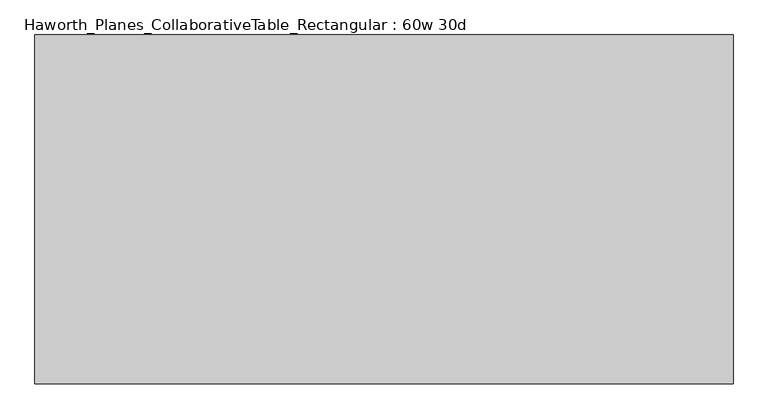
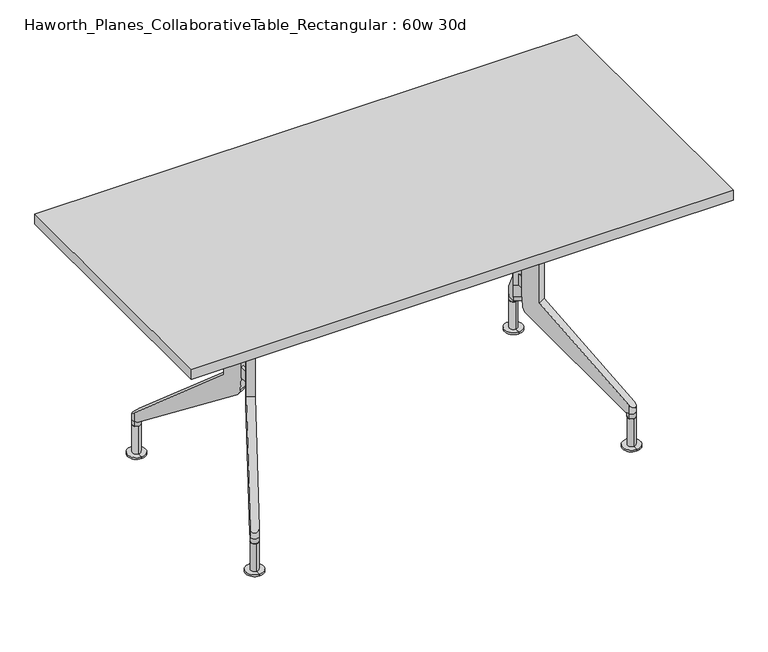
"""IFC4 building model written with IfcOpenShell, lengths in millimetres: furniture geometry, Haworth_Planes_CollaborativeTable_Rectangular : 60w 30d."""

from ifc_helpers import new_model, si_unit, point, frame, frame_2d, origin, place, context, project, spatial, polyline, circle_curve, ellipse_curve, trimmed, segment, composite_curve, outline, extrude, source, transform, mapped, element, save
from ifc_brep_helpers import plane_surface, cylinder_surface, advanced_brep


def haworth_planes_collaborativetable_rectangular_60w_30d_efc839f5(model_context):
    return source(origin(), model_context, "Body", "SolidModel", [
        extrude(outline(composite_curve([segment(polyline([(-62.6070312, 684.7085937), (62.6070313, 684.7085937), (62.6070313, 643.5651991)]), True, "CONTINUOUS"), segment(trimmed(circle_curve(frame_2d((56.2570313, 643.5651991)), 6.35), [point((62.6070313, 643.5651991))], [point((56.2570313, 637.2151991))], False, "CARTESIAN"), True, "CONTINUOUS"), segment(polyline([(56.2570313, 637.2151991), (-56.2570312, 637.2151991)]), True, "CONTINUOUS"), segment(trimmed(circle_curve(frame_2d((-56.2570312, 643.5651991)), 6.35), [point((-56.2570312, 637.2151991))], [point((-62.6070312, 643.5651991))], False, "CARTESIAN"), True, "CONTINUOUS"), segment(polyline([(-62.6070312, 643.5651991), (-62.6070312, 684.7085937)]), True, "CONTINUOUS")], self_intersect=False)), frame((-381.0, 0.0, 0.0), z_axis=(1.0, 0.0, 0.0), x_axis=(0.0, 1.0, 0.0)), (0.0, 0.0, 1.0), 762.0),
        extrude(outline(polyline([(762.0, -381.0), (-762.0, -381.0), (-762.0, 381.0), (762.0, 381.0), (762.0, -381.0)])), frame((0.0, 0.0, 706.4375), z_axis=(0.0, 0.0, 1.0), x_axis=(1.0, 0.0, 0.0)), (0.0, 0.0, 1.0), 30.1625),
        advanced_brep(
        [(530.225, 276.6169029, 87.3125), (530.2160783, 287.7293994, 87.3125), (530.2071566, 298.8418958, 87.3125), (520.4062702, 292.9500622, 87.3125), (540.0298221, 282.5161384, 87.3125), (530.2160783, 287.7293994, 0.0), (530.2364707, 262.3294076, 0.0), (530.1956859, 313.1293912, 0.0), (530.2364707, 262.3294076, 4.7625), (530.1956859, 313.1293912, 4.7625), (530.225, 276.6169029, 4.7625), (530.2071566, 298.8418958, 4.7625), (530.2071566, 298.8418958, 81.9372337)],
        [
            (0, 1),
            (1, 2),
            (2, 3, circle_curve(frame((530.2160783, 287.7293994, 87.3125), z_axis=(0.0, 0.0, 1.0), x_axis=(0.0008028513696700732, -0.9999996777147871, 0.0)), 11.1125)),
            (3, 0, circle_curve(frame((530.2160783, 287.7293994, 87.3125), z_axis=(0.0, 0.0, 1.0), x_axis=(0.0008028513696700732, -0.9999996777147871, 0.0)), 11.1125)),
            (0, 4, circle_curve(frame((530.2160783, 287.7293994, 87.3125), z_axis=(0.0, 0.0, 1.0), x_axis=(0.0008028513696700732, -0.9999996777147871, 0.0)), 11.1125)),
            (4, 2, circle_curve(frame((530.2160783, 287.7293994, 87.3125), z_axis=(0.0, 0.0, 1.0), x_axis=(0.0008028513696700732, -0.9999996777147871, 0.0)), 11.1125)),
            (5, 6),
            (6, 7, circle_curve(frame((530.2160783, 287.7293994, 0.0), z_axis=(0.0, 0.0, -1.0), x_axis=(0.0008028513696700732, -0.9999996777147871, 0.0)), 25.4)),
            (7, 5),
            (7, 6, circle_curve(frame((530.2160783, 287.7293994, 0.0), z_axis=(0.0, 0.0, -1.0), x_axis=(0.0008028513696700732, -0.9999996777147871, 0.0)), 25.4)),
            (6, 8),
            (8, 9, circle_curve(frame((530.2160783, 287.7293994, 4.7625), z_axis=(0.0, 0.0, -1.0), x_axis=(0.0008028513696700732, -0.9999996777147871, 0.0)), 25.4)),
            (9, 7),
            (9, 8, circle_curve(frame((530.2160783, 287.7293994, 4.7625), z_axis=(0.0, 0.0, -1.0), x_axis=(0.0008028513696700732, -0.9999996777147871, 0.0)), 25.4)),
            (8, 10),
            (10, 11, circle_curve(frame((530.2160783, 287.7293994, 4.7625), z_axis=(0.0, 0.0, -1.0), x_axis=(0.0008028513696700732, -0.9999996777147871, 0.0)), 11.1125)),
            (11, 9),
            (11, 10, circle_curve(frame((530.2160783, 287.7293994, 4.7625), z_axis=(0.0, 0.0, -1.0), x_axis=(0.0008028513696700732, -0.9999996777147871, 0.0)), 11.1125)),
            (10, 0),
            (2, 12),
            (12, 11),
        ],
        [
            plane_surface(frame((530.2160783, 287.7293994, 87.3125), z_axis=(0.0, 0.0, 1.0), x_axis=(0.0008028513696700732, -0.9999996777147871, 0.0))),
            plane_surface(frame((530.2160783, 287.7293994, 0.0), z_axis=(0.0, 0.0, -1.0), x_axis=(0.0008028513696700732, -0.9999996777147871, 0.0))),
            cylinder_surface(frame((530.2160783, 287.7293994, 87.0927212), z_axis=(0.0, 0.0, -1.0), x_axis=(0.0008028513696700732, -0.9999996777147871, 0.0)), 25.4),
            plane_surface(frame((530.2160783, 287.7293994, 4.7625), z_axis=(0.0, 0.0, 1.0), x_axis=(0.0008028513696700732, -0.9999996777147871, 0.0))),
            cylinder_surface(frame((530.2160783, 287.7293994, 87.0927212), z_axis=(0.0, 0.0, -1.0), x_axis=(0.0008028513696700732, -0.9999996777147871, 0.0)), 11.1125),
        ],
        [
            (0, [[1, 2, 3, 4]]),
            (0, [[-1, 5, 6, -2]]),
            (1, [[7, 8, 9]]),
            (1, [[-7, -9, 10]]),
            (2, [[-8, 11, 12, 13]]),
            (2, [[-10, -13, 14, -11]]),
            (3, [[-12, 15, 16, 17]]),
            (3, [[-14, -17, 18, -15]]),
            (4, [[-16, 19, -4, -3, 20, 21]]),
            (4, [[-18, -21, -20, -6, -5, -19]]),
        ],
    ),
        advanced_brep(
        [(530.2339217, -287.7294065, 87.3125), (530.2428434, -276.6169101, 87.3125), (530.225, -298.8419029, 87.3125), (530.2135293, -313.1293983, 0.0), (530.2543141, -262.3294147, 0.0), (530.2339217, -287.7294065, 0.0), (530.2135293, -313.1293983, 4.7625), (530.2543141, -262.3294147, 4.7625), (530.225, -298.8419029, 4.7625), (530.2428434, -276.6169101, 4.7625)],
        [
            (0, 1),
            (1, 2, circle_curve(frame((530.2339217, -287.7294065, 87.3125), z_axis=(0.0, 0.0, 1.0), x_axis=(0.0008028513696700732, 0.9999996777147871, 0.0)), 11.1125)),
            (2, 0),
            (2, 1, circle_curve(frame((530.2339217, -287.7294065, 87.3125), z_axis=(0.0, 0.0, 1.0), x_axis=(0.0008028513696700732, 0.9999996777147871, 0.0)), 11.1125)),
            (3, 4, circle_curve(frame((530.2339217, -287.7294065, 0.0), z_axis=(0.0, 0.0, -1.0), x_axis=(0.0008028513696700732, 0.9999996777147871, 0.0)), 25.4)),
            (4, 5),
            (5, 3),
            (4, 3, circle_curve(frame((530.2339217, -287.7294065, 0.0), z_axis=(0.0, 0.0, -1.0), x_axis=(0.0008028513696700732, 0.9999996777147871, 0.0)), 25.4)),
            (6, 7, circle_curve(frame((530.2339217, -287.7294065, 4.7625), z_axis=(0.0, 0.0, -1.0), x_axis=(0.0008028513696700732, 0.9999996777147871, 0.0)), 25.4)),
            (7, 4),
            (3, 6),
            (7, 6, circle_curve(frame((530.2339217, -287.7294065, 4.7625), z_axis=(0.0, 0.0, -1.0), x_axis=(0.0008028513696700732, 0.9999996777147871, 0.0)), 25.4)),
            (8, 9, circle_curve(frame((530.2339217, -287.7294065, 4.7625), z_axis=(0.0, 0.0, -1.0), x_axis=(0.0008028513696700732, 0.9999996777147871, 0.0)), 11.1125)),
            (9, 7),
            (6, 8),
            (9, 8, circle_curve(frame((530.2339217, -287.7294065, 4.7625), z_axis=(0.0, 0.0, -1.0), x_axis=(0.0008028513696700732, 0.9999996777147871, 0.0)), 11.1125)),
            (1, 9),
            (8, 2),
        ],
        [
            plane_surface(frame((530.2339217, -287.7294065, 87.3125), z_axis=(0.0, 0.0, 1.0), x_axis=(0.0008028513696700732, 0.9999996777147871, 0.0))),
            plane_surface(frame((530.2339217, -287.7294065, 0.0), z_axis=(0.0, 0.0, -1.0), x_axis=(0.0008028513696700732, 0.9999996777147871, 0.0))),
            cylinder_surface(frame((530.2339217, -287.7294065, 87.0927212), z_axis=(0.0, 0.0, 1.0), x_axis=(0.0008028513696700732, 0.9999996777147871, 0.0)), 25.4),
            plane_surface(frame((530.2339217, -287.7294065, 4.7625), z_axis=(0.0, 0.0, 1.0), x_axis=(0.0008028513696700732, 0.9999996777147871, 0.0))),
            cylinder_surface(frame((530.2339217, -287.7294065, 87.0927212), z_axis=(0.0, 0.0, 1.0), x_axis=(0.0008028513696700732, 0.9999996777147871, 0.0)), 11.1125),
        ],
        [
            (0, [[1, 2, 3]]),
            (0, [[-3, 4, -1]]),
            (1, [[5, 6, 7]]),
            (1, [[8, -7, -6]]),
            (2, [[9, 10, -5, 11]]),
            (2, [[12, -11, -8, -10]]),
            (3, [[13, 14, -9, 15]]),
            (3, [[16, -15, -12, -14]]),
            (4, [[-2, 17, -13, 18]]),
            (4, [[-4, -18, -16, -17]]),
        ],
    ),
        advanced_brep(
        [(395.2875, -10.2759364, 346.075), (386.9624427, -14.7024039, 346.075), (386.9624427, 14.7024039, 346.075), (395.2875, 10.2759364, 346.075), (386.9624427, -14.7024039, 377.825), (386.9624427, 14.7024039, 377.825), (395.2875, -10.2759364, 377.825), (395.2875, 10.2759364, 377.825), (520.4132234, -292.9463652, 127.0692937), (520.4132234, -292.9463652, 102.60711), (540.0367766, -282.5124407, 102.60711), (540.0367766, -282.5124407, 127.0692937), (399.5129171, -65.5636971, 706.4375), (375.6639467, -20.709861, 706.4375), (375.6639467, -20.709861, 345.8924055), (376.8554044, -22.9506894, 309.598894), (382.2901681, -33.1720949, 289.5346), (516.0759245, -284.7890113, 102.60711), (399.5129171, -65.5636971, 336.5430612), (419.1364704, -55.1297725, 706.4375), (419.1364704, -55.1297725, 336.5430612), (535.6994778, -274.3550868, 102.60711), (401.9137214, -22.7381703, 289.5346), (396.4789577, -12.5167648, 309.598894), (395.2875, -10.2759364, 345.8924055), (395.2875, -10.2759364, 706.4375), (531.3400894, -276.6729916, 102.60711), (520.4353129, -282.4711065, 102.60711), (540.0367766, -282.5124407, 87.3125), (520.4132234, -292.9463652, 87.3125), (520.4132234, 292.9463652, 102.60711), (520.4132234, 292.9463652, 127.0692937), (540.0367766, 282.5124407, 127.0692937), (540.0367766, 282.5124407, 102.60711), (399.5129171, 65.5636971, 706.4375), (399.5129171, 65.5636971, 336.5430612), (516.0759245, 284.7890113, 102.60711), (382.2901681, 33.1720949, 289.5346), (376.8554044, 22.9506894, 309.598894), (375.6639467, 20.709861, 345.8924055), (375.6639467, 20.709861, 706.4375), (419.1364704, 55.1297725, 706.4375), (395.2875, 10.2759364, 706.4375), (395.2875, 10.2759364, 345.8924055), (396.4789577, 12.5167648, 309.598894), (401.9137214, 22.7381703, 289.5346), (535.6994778, 274.3550868, 102.60711), (419.1364704, 55.1297725, 336.5430612), (520.4353129, 282.4711065, 102.60711), (531.3400894, 276.6729916, 102.60711), (540.0367766, 282.5124407, 87.3125), (520.4132234, 292.9463652, 87.3125)],
        [
            (0, 1),
            (1, 2),
            (2, 3),
            (3, 0),
            (1, 4),
            (4, 5),
            (5, 2),
            (4, 6),
            (6, 7),
            (7, 5),
            (6, 0),
            (3, 7),
            (8, 9),
            (9, 10, circle_curve(frame((530.225, -287.7294029, 102.60711), z_axis=(0.0, 0.0, 1.0), x_axis=(-0.8829495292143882, -0.4694679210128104, 0.0)), 11.1125)),
            (10, 11),
            (11, 8, ellipse_curve(frame((530.225, -287.7294029, 127.0692937), z_axis=(-0.29624204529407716, 0.5571557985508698, -0.7757693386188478), x_axis=(0.36419881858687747, -0.6849651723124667, -0.6310165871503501)), 14.3244898, 11.1125)),
            (12, 13),
            (13, 14),
            (14, 15),
            (15, 16, circle_curve(frame((389.2363015, -46.2360018, 311.4430172), z_axis=(-0.8829495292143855, -0.4694679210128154, 0.0), x_axis=(-0.4694679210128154, 0.8829495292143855, 0.0)), 26.4365879)),
            (16, 17),
            (17, 9),
            (8, 18),
            (18, 12),
            (19, 20),
            (20, 11),
            (10, 21),
            (21, 22),
            (22, 23, circle_curve(frame((408.8598548, -35.8020773, 311.4430172), z_axis=(0.8829495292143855, 0.4694679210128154, 0.0), x_axis=(-0.4694679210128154, 0.8829495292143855, 0.0)), 26.4365879)),
            (23, 24),
            (24, 0),
            (6, 25),
            (25, 19),
            (12, 19),
            (25, 13),
            (24, 14),
            (23, 15),
            (22, 16),
            (21, 26),
            (26, 27),
            (27, 17),
            (20, 18),
            (27, 9, circle_curve(frame((530.225, -287.7294029, 102.60711), z_axis=(0.0, 0.0, 1.0), x_axis=(-0.8829495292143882, -0.4694679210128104, 0.0)), 11.1125)),
            (10, 26, circle_curve(frame((530.225, -287.7294029, 102.60711), z_axis=(0.0, 0.0, 1.0), x_axis=(-0.8829495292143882, -0.4694679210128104, 0.0)), 11.1125)),
            (26, 27, circle_curve(frame((530.225, -287.7294029, 102.60711), z_axis=(0.0, 0.0, 1.0), x_axis=(-0.8829495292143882, -0.4694679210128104, 0.0)), 11.1125)),
            (28, 29, circle_curve(frame((530.225, -287.7294029, 87.3125), z_axis=(0.0, 0.0, -1.0), x_axis=(-0.8829495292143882, -0.4694679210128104, 0.0)), 11.1125)),
            (29, 28, circle_curve(frame((530.225, -287.7294029, 87.3125), z_axis=(0.0, 0.0, -1.0), x_axis=(-0.8829495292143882, -0.4694679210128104, 0.0)), 11.1125)),
            (28, 10),
            (9, 29),
            (30, 31),
            (31, 32, ellipse_curve(frame((530.225, 287.7294029, 127.0692937), z_axis=(-0.29624204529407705, -0.5571557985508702, -0.7757693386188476), x_axis=(0.36419881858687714, 0.6849651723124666, -0.6310165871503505)), 14.3244898, 11.1125)),
            (32, 33),
            (33, 30, circle_curve(frame((530.225, 287.7294029, 102.60711), z_axis=(0.0, 0.0, 1.0), x_axis=(-0.8829495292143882, 0.4694679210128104, 0.0)), 11.1125)),
            (34, 35),
            (35, 31),
            (30, 36),
            (36, 37),
            (37, 38, circle_curve(frame((389.2363015, 46.2360018, 311.4430172), z_axis=(-0.8829495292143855, 0.4694679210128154, 0.0), x_axis=(-0.4694679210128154, -0.8829495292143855, 0.0)), 26.4365879)),
            (38, 39),
            (39, 40),
            (40, 34),
            (41, 42),
            (42, 7),
            (3, 43),
            (43, 44),
            (44, 45, circle_curve(frame((408.8598548, 35.8020773, 311.4430172), z_axis=(0.8829495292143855, -0.4694679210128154, 0.0), x_axis=(-0.4694679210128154, -0.8829495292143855, 0.0)), 26.4365879)),
            (45, 46),
            (46, 33),
            (32, 47),
            (47, 41),
            (40, 42),
            (41, 34),
            (39, 43),
            (38, 44),
            (37, 45),
            (36, 48),
            (48, 49),
            (49, 46),
            (35, 47),
            (30, 48, circle_curve(frame((530.225, 287.7294029, 102.60711), z_axis=(0.0, 0.0, 1.0), x_axis=(-0.8829495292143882, 0.4694679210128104, 0.0)), 11.1125)),
            (49, 33, circle_curve(frame((530.225, 287.7294029, 102.60711), z_axis=(0.0, 0.0, 1.0), x_axis=(-0.8829495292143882, 0.4694679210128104, 0.0)), 11.1125)),
            (48, 49, circle_curve(frame((530.225, 287.7294029, 102.60711), z_axis=(0.0, 0.0, 1.0), x_axis=(-0.8829495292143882, 0.4694679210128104, 0.0)), 11.1125)),
            (50, 51, circle_curve(frame((530.225, 287.7294029, 87.3125), z_axis=(0.0, 0.0, -1.0), x_axis=(-0.8829495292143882, 0.4694679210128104, 0.0)), 11.1125)),
            (51, 50, circle_curve(frame((530.225, 287.7294029, 87.3125), z_axis=(0.0, 0.0, -1.0), x_axis=(-0.8829495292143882, 0.4694679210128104, 0.0)), 11.1125)),
            (51, 30),
            (33, 50),
        ],
        [
            plane_surface(frame((395.2875, 25.4, 346.075), z_axis=(0.0, 0.0, -1.0), x_axis=(0.0, -1.0, 0.0))),
            plane_surface(frame((386.9624427, 25.4, 346.075), z_axis=(-1.0, 0.0, 0.0), x_axis=(0.0, -1.0, 0.0))),
            plane_surface(frame((386.9624427, 25.4, 377.825), z_axis=(0.0, 0.0, 1.0), x_axis=(0.0, -1.0, 0.0))),
            plane_surface(frame((395.2875, 25.4, 377.825), z_axis=(1.0, 0.0, 0.0), x_axis=(0.0, -1.0, 0.0))),
            cylinder_surface(frame((530.225, -287.7294029, 81.9372337), z_axis=(0.0, 0.0, -1.0), x_axis=(-0.8829495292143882, -0.4694679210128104, 0.0)), 11.1125),
            plane_surface(frame((375.6639467, -20.709861, 706.4375), z_axis=(-0.8829495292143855, -0.4694679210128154, 0.0), x_axis=(-0.4694679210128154, 0.8829495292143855, 0.0))),
            plane_surface(frame((395.2875, -10.2759364, 706.4375), z_axis=(0.8829495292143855, 0.4694679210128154, 0.0), x_axis=(0.4694679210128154, -0.8829495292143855, 0.0))),
            plane_surface(frame((399.5129171, -65.5636971, 706.4375), z_axis=(0.0, 0.0, 1.0000000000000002), x_axis=(0.8829495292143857, 0.469467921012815, 0.0))),
            plane_surface(frame((375.6639467, -20.709861, 706.4375), z_axis=(-0.4694679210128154, 0.8829495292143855, 0.0), x_axis=(0.8829495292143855, 0.4694679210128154, 0.0))),
            plane_surface(frame((375.6639467, -20.709861, 345.8924055), z_axis=(-0.46832432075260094, 0.8807987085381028, -0.0697564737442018), x_axis=(0.8829495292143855, 0.4694679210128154, 0.0))),
            cylinder_surface(frame((408.8598548, -35.8020773, 311.4430172), z_axis=(-0.8829495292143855, -0.4694679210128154, 0.0), x_axis=(-0.4694679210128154, 0.8829495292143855, 0.0)), 26.4365879),
            plane_surface(frame((382.2901681, -33.1720949, 289.5346), z_axis=(-0.2574936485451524, 0.48427993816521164, -0.8361638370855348), x_axis=(0.8829495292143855, 0.4694679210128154, 0.0))),
            plane_surface(frame((526.425069, -304.2531149, 116.6530756), z_axis=(0.29624204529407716, -0.5571557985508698, 0.7757693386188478), x_axis=(0.8829495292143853, 0.4694679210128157, 0.0))),
            plane_surface(frame((399.5129171, -65.5636971, 336.5430612), z_axis=(0.46946792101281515, -0.8829495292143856, 0.0), x_axis=(0.8829495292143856, 0.46946792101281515, 0.0))),
            plane_surface(frame((516.0759245, -284.7890113, 102.60711), z_axis=(0.0, 0.0, -1.0), x_axis=(0.8829495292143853, 0.4694679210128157, 0.0))),
            plane_surface(frame((520.4132234, -292.9463652, 102.60711), z_axis=(0.0, 0.0, 1.0), x_axis=(0.4694679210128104, -0.8829495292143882, 0.0))),
            plane_surface(frame((520.4132234, -292.9463652, 87.3125), z_axis=(0.0, 0.0, -1.0), x_axis=(-0.4694679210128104, 0.8829495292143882, 0.0))),
            cylinder_surface(frame((530.225, -287.7294029, 87.3125), z_axis=(0.0, 0.0, 1.0), x_axis=(-0.8829495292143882, -0.4694679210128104, 0.0)), 11.1125),
            cylinder_surface(frame((530.225, 287.7294029, 81.9372337), z_axis=(0.0, 0.0, -1.0), x_axis=(-0.8829495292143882, 0.4694679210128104, 0.0)), 11.1125),
            plane_surface(frame((399.5129171, 65.5636971, 336.5430612), z_axis=(-0.8829495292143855, 0.4694679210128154, 0.0), x_axis=(0.0, 0.0, -1.0))),
            plane_surface(frame((419.1364704, 55.1297725, 336.5430612), z_axis=(0.8829495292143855, -0.4694679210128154, 0.0), x_axis=(0.0, 0.0, 1.0))),
            plane_surface(frame((375.6639467, 20.709861, 706.4375), z_axis=(0.0, 0.0, 1.0000000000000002), x_axis=(0.8829495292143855, -0.4694679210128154, 0.0))),
            plane_surface(frame((375.6639467, 20.709861, 345.8924055), z_axis=(-0.4694679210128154, -0.8829495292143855, 0.0), x_axis=(0.8829495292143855, -0.4694679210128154, 0.0))),
            plane_surface(frame((376.8554044, 22.9506894, 309.598894), z_axis=(-0.46832432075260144, -0.8807987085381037, -0.06975647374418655), x_axis=(0.8829495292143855, -0.4694679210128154, 0.0))),
            cylinder_surface(frame((408.8598548, 35.8020773, 311.4430172), z_axis=(-0.8829495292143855, 0.4694679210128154, 0.0), x_axis=(-0.4694679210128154, -0.8829495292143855, 0.0)), 26.4365879),
            plane_surface(frame((516.0759245, 284.7890113, 102.60711), z_axis=(-0.25749364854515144, -0.48427993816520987, -0.8361638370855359), x_axis=(0.8829495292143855, -0.4694679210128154, 0.0))),
            plane_surface(frame((399.5129171, 65.5636971, 336.5430612), z_axis=(0.2962420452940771, 0.5571557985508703, 0.7757693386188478), x_axis=(0.8829495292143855, -0.4694679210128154, 0.0))),
            plane_surface(frame((399.5129171, 65.5636971, 706.4375), z_axis=(0.4694679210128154, 0.8829495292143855, 0.0), x_axis=(0.8829495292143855, -0.4694679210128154, 0.0))),
            plane_surface(frame((526.425069, 304.2531149, 102.60711), z_axis=(0.0, 0.0, -1.0), x_axis=(0.8829495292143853, -0.4694679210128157, 0.0))),
            plane_surface(frame((520.4132234, 292.9463652, 102.60711), z_axis=(0.0, 0.0, 1.0), x_axis=(-0.4694679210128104, -0.8829495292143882, 0.0))),
            plane_surface(frame((520.4132234, 292.9463652, 87.3125), z_axis=(0.0, 0.0, -1.0), x_axis=(0.4694679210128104, 0.8829495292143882, 0.0))),
            cylinder_surface(frame((530.225, 287.7294029, 87.3125), z_axis=(0.0, 0.0, 1.0), x_axis=(-0.8829495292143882, 0.4694679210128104, 0.0)), 11.1125),
        ],
        [
            (0, [[1, 2, 3, 4]]),
            (1, [[5, 6, 7, -2]]),
            (2, [[8, 9, 10, -6]]),
            (3, [[11, -4, 12, -9]]),
            (4, [[13, 14, 15, 16]]),
            (5, [[17, 18, 19, 20, 21, 22, -13, 23, 24]]),
            (6, [[25, 26, -15, 27, 28, 29, 30, 31, -11, 32, 33]]),
            (7, [[-17, 34, -33, 35]]),
            (8, [[-18, -35, -32, -8, -5, -1, -31, 36]]),
            (9, [[-19, -36, -30, 37]]),
            (10, [[-20, -37, -29, 38]]),
            (11, [[-21, -38, -28, 39, 40, 41]]),
            (12, [[42, -23, -16, -26]]),
            (13, [[-24, -42, -25, -34]]),
            (14, [[-22, -41, 43]]),
            (14, [[-27, 44, -39]]),
            (15, [[45, -40]]),
            (16, [[46, 47]]),
            (17, [[-46, 48, -14, 49]]),
            (17, [[-47, -49, -43, -45, -44, -48]]),
            (18, [[50, 51, 52, 53]]),
            (19, [[54, 55, -50, 56, 57, 58, 59, 60, 61]]),
            (20, [[62, 63, -12, 64, 65, 66, 67, 68, -52, 69, 70]]),
            (21, [[-61, 71, -62, 72]]),
            (22, [[-60, 73, -64, -3, -7, -10, -63, -71]]),
            (23, [[-59, 74, -65, -73]]),
            (24, [[-58, 75, -66, -74]]),
            (25, [[-57, 76, 77, 78, -67, -75]]),
            (26, [[79, -69, -51, -55]]),
            (27, [[-54, -72, -70, -79]]),
            (28, [[-56, 80, -76]]),
            (28, [[-68, -78, 81]]),
            (29, [[82, -77]]),
            (30, [[83, 84]]),
            (31, [[-84, 85, -53, 86]]),
            (31, [[-83, -86, -81, -82, -80, -85]]),
        ],
    ),
        advanced_brep(
        [(-530.225, 276.6169029, 87.3125), (-520.4062702, 292.9500622, 87.3125), (-530.2071566, 298.8418958, 87.3125), (-530.2160783, 287.7293994, 87.3125), (-540.0298221, 282.5161384, 87.3125), (-530.2160783, 287.7293994, 0.0), (-530.1956859, 313.1293912, 0.0), (-530.2364707, 262.3294076, 0.0), (-530.1956859, 313.1293912, 4.7625), (-530.2364707, 262.3294076, 4.7625), (-530.2071566, 298.8418958, 4.7625), (-530.225, 276.6169029, 4.7625), (-530.2071566, 298.8418958, 81.9372337)],
        [
            (0, 1, circle_curve(frame((-530.2160783, 287.7293994, 87.3125), z_axis=(0.0, 0.0, 1.0), x_axis=(-0.0008028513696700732, -0.9999996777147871, 0.0)), 11.1125)),
            (1, 2, circle_curve(frame((-530.2160783, 287.7293994, 87.3125), z_axis=(0.0, 0.0, 1.0), x_axis=(-0.0008028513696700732, -0.9999996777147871, 0.0)), 11.1125)),
            (2, 3),
            (3, 0),
            (2, 4, circle_curve(frame((-530.2160783, 287.7293994, 87.3125), z_axis=(0.0, 0.0, 1.0), x_axis=(-0.0008028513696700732, -0.9999996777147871, 0.0)), 11.1125)),
            (4, 0, circle_curve(frame((-530.2160783, 287.7293994, 87.3125), z_axis=(0.0, 0.0, 1.0), x_axis=(-0.0008028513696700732, -0.9999996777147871, 0.0)), 11.1125)),
            (5, 6),
            (6, 7, circle_curve(frame((-530.2160783, 287.7293994, 0.0), z_axis=(0.0, 0.0, -1.0), x_axis=(-0.0008028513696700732, -0.9999996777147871, 0.0)), 25.4)),
            (7, 5),
            (7, 6, circle_curve(frame((-530.2160783, 287.7293994, 0.0), z_axis=(0.0, 0.0, -1.0), x_axis=(-0.0008028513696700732, -0.9999996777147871, 0.0)), 25.4)),
            (6, 8),
            (8, 9, circle_curve(frame((-530.2160783, 287.7293994, 4.7625), z_axis=(0.0, 0.0, -1.0), x_axis=(-0.0008028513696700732, -0.9999996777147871, 0.0)), 25.4)),
            (9, 7),
            (9, 8, circle_curve(frame((-530.2160783, 287.7293994, 4.7625), z_axis=(0.0, 0.0, -1.0), x_axis=(-0.0008028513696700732, -0.9999996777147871, 0.0)), 25.4)),
            (8, 10),
            (10, 11, circle_curve(frame((-530.2160783, 287.7293994, 4.7625), z_axis=(0.0, 0.0, -1.0), x_axis=(-0.0008028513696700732, -0.9999996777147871, 0.0)), 11.1125)),
            (11, 9),
            (11, 10, circle_curve(frame((-530.2160783, 287.7293994, 4.7625), z_axis=(0.0, 0.0, -1.0), x_axis=(-0.0008028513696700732, -0.9999996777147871, 0.0)), 11.1125)),
            (10, 12),
            (12, 2),
            (0, 11),
        ],
        [
            plane_surface(frame((-530.2160783, 287.7293994, 87.3125), z_axis=(0.0, 0.0, 1.0), x_axis=(-0.0008028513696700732, -0.9999996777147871, 0.0))),
            plane_surface(frame((-530.2160783, 287.7293994, 0.0), z_axis=(0.0, 0.0, -1.0), x_axis=(-0.0008028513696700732, -0.9999996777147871, 0.0))),
            cylinder_surface(frame((-530.2160783, 287.7293994, 87.0927212), z_axis=(0.0, 0.0, -1.0), x_axis=(-0.0008028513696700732, -0.9999996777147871, 0.0)), 25.4),
            plane_surface(frame((-530.2160783, 287.7293994, 4.7625), z_axis=(0.0, 0.0, 1.0), x_axis=(-0.0008028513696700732, -0.9999996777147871, 0.0))),
            cylinder_surface(frame((-530.2160783, 287.7293994, 87.0927212), z_axis=(0.0, 0.0, -1.0), x_axis=(-0.0008028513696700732, -0.9999996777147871, 0.0)), 11.1125),
        ],
        [
            (0, [[1, 2, 3, 4]]),
            (0, [[-3, 5, 6, -4]]),
            (1, [[7, 8, 9]]),
            (1, [[10, -7, -9]]),
            (2, [[11, 12, 13, -8]]),
            (2, [[-13, 14, -11, -10]]),
            (3, [[15, 16, 17, -12]]),
            (3, [[-17, 18, -15, -14]]),
            (4, [[19, 20, -2, -1, 21, -16]]),
            (4, [[-21, -6, -5, -20, -19, -18]]),
        ],
    ),
        advanced_brep(
        [(-530.2339217, -287.7294065, 87.3125), (-530.225, -298.8419029, 87.3125), (-530.2428434, -276.6169101, 87.3125), (-530.2135293, -313.1293983, 0.0), (-530.2339217, -287.7294065, 0.0), (-530.2543141, -262.3294147, 0.0), (-530.2135293, -313.1293983, 4.7625), (-530.2543141, -262.3294147, 4.7625), (-530.225, -298.8419029, 4.7625), (-530.2428434, -276.6169101, 4.7625)],
        [
            (0, 1),
            (1, 2, circle_curve(frame((-530.2339217, -287.7294065, 87.3125), z_axis=(0.0, 0.0, 1.0), x_axis=(-0.0008028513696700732, 0.9999996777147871, 0.0)), 11.1125)),
            (2, 0),
            (2, 1, circle_curve(frame((-530.2339217, -287.7294065, 87.3125), z_axis=(0.0, 0.0, 1.0), x_axis=(-0.0008028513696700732, 0.9999996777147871, 0.0)), 11.1125)),
            (3, 4),
            (4, 5),
            (5, 3, circle_curve(frame((-530.2339217, -287.7294065, 0.0), z_axis=(0.0, 0.0, -1.0), x_axis=(-0.0008028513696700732, 0.9999996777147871, 0.0)), 25.4)),
            (3, 5, circle_curve(frame((-530.2339217, -287.7294065, 0.0), z_axis=(0.0, 0.0, -1.0), x_axis=(-0.0008028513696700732, 0.9999996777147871, 0.0)), 25.4)),
            (6, 3),
            (5, 7),
            (7, 6, circle_curve(frame((-530.2339217, -287.7294065, 4.7625), z_axis=(0.0, 0.0, -1.0), x_axis=(-0.0008028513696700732, 0.9999996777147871, 0.0)), 25.4)),
            (6, 7, circle_curve(frame((-530.2339217, -287.7294065, 4.7625), z_axis=(0.0, 0.0, -1.0), x_axis=(-0.0008028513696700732, 0.9999996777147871, 0.0)), 25.4)),
            (8, 6),
            (7, 9),
            (9, 8, circle_curve(frame((-530.2339217, -287.7294065, 4.7625), z_axis=(0.0, 0.0, -1.0), x_axis=(-0.0008028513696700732, 0.9999996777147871, 0.0)), 11.1125)),
            (8, 9, circle_curve(frame((-530.2339217, -287.7294065, 4.7625), z_axis=(0.0, 0.0, -1.0), x_axis=(-0.0008028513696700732, 0.9999996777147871, 0.0)), 11.1125)),
            (1, 8),
            (9, 2),
        ],
        [
            plane_surface(frame((-530.2339217, -287.7294065, 87.3125), z_axis=(0.0, 0.0, 1.0), x_axis=(-0.0008028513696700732, 0.9999996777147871, 0.0))),
            plane_surface(frame((-530.2339217, -287.7294065, 0.0), z_axis=(0.0, 0.0, -1.0), x_axis=(-0.0008028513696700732, 0.9999996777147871, 0.0))),
            cylinder_surface(frame((-530.2339217, -287.7294065, 87.0927212), z_axis=(0.0, 0.0, 1.0), x_axis=(-0.0008028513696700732, 0.9999996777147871, 0.0)), 25.4),
            plane_surface(frame((-530.2339217, -287.7294065, 4.7625), z_axis=(0.0, 0.0, 1.0), x_axis=(-0.0008028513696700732, 0.9999996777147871, 0.0))),
            cylinder_surface(frame((-530.2339217, -287.7294065, 87.0927212), z_axis=(0.0, 0.0, 1.0), x_axis=(-0.0008028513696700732, 0.9999996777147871, 0.0)), 11.1125),
        ],
        [
            (0, [[1, 2, 3]]),
            (0, [[-3, 4, -1]]),
            (1, [[5, 6, 7]]),
            (1, [[-6, -5, 8]]),
            (2, [[9, -7, 10, 11]]),
            (2, [[-10, -8, -9, 12]]),
            (3, [[13, -11, 14, 15]]),
            (3, [[-14, -12, -13, 16]]),
            (4, [[17, -15, 18, -2]]),
            (4, [[-18, -16, -17, -4]]),
        ],
    ),
        advanced_brep(
        [(-395.2875, -10.2759364, 346.075), (-395.2875, 10.2759364, 346.075), (-386.9624427, 14.7024039, 346.075), (-386.9624427, -14.7024039, 346.075), (-386.9624427, 14.7024039, 377.825), (-386.9624427, -14.7024039, 377.825), (-395.2875, 10.2759364, 377.825), (-395.2875, -10.2759364, 377.825), (-520.4132234, -292.9463652, 127.0692937), (-540.0367766, -282.5124407, 127.0692937), (-540.0367766, -282.5124407, 102.60711), (-520.4132234, -292.9463652, 102.60711), (-399.5129171, -65.5636971, 706.4375), (-399.5129171, -65.5636971, 336.5430612), (-516.0759245, -284.7890113, 102.60711), (-382.2901681, -33.1720949, 289.5346), (-376.8554044, -22.9506894, 309.598894), (-375.6639467, -20.709861, 345.8924055), (-375.6639467, -20.709861, 706.4375), (-419.1364704, -55.1297725, 706.4375), (-395.2875, -10.2759364, 706.4375), (-395.2875, -10.2759364, 345.8924055), (-396.4789577, -12.5167648, 309.598894), (-401.9137214, -22.7381703, 289.5346), (-535.6994778, -274.3550868, 102.60711), (-419.1364704, -55.1297725, 336.5430612), (-520.4353129, -282.4711065, 102.60711), (-531.3400894, -276.6729916, 102.60711), (-540.0367766, -282.5124407, 87.3125), (-520.4132234, -292.9463652, 87.3125), (-520.4132234, 292.9463652, 102.60711), (-540.0367766, 282.5124407, 102.60711), (-540.0367766, 282.5124407, 127.0692937), (-520.4132234, 292.9463652, 127.0692937), (-399.5129171, 65.5636971, 706.4375), (-375.6639467, 20.709861, 706.4375), (-375.6639467, 20.709861, 345.8924055), (-376.8554044, 22.9506894, 309.598894), (-382.2901681, 33.1720949, 289.5346), (-516.0759245, 284.7890113, 102.60711), (-399.5129171, 65.5636971, 336.5430612), (-419.1364704, 55.1297725, 706.4375), (-419.1364704, 55.1297725, 336.5430612), (-535.6994778, 274.3550868, 102.60711), (-401.9137214, 22.7381703, 289.5346), (-396.4789577, 12.5167648, 309.598894), (-395.2875, 10.2759364, 345.8924055), (-395.2875, 10.2759364, 706.4375), (-531.3400894, 276.6729916, 102.60711), (-520.4353129, 282.4711065, 102.60711), (-540.0367766, 282.5124407, 87.3125), (-520.4132234, 292.9463652, 87.3125)],
        [
            (0, 1),
            (1, 2),
            (2, 3),
            (3, 0),
            (2, 4),
            (4, 5),
            (5, 3),
            (4, 6),
            (6, 7),
            (7, 5),
            (6, 1),
            (0, 7),
            (8, 9, ellipse_curve(frame((-530.225, -287.7294029, 127.0692937), z_axis=(0.29624204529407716, 0.5571557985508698, -0.7757693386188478), x_axis=(-0.36419881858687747, -0.6849651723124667, -0.6310165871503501)), 14.3244898, 11.1125)),
            (9, 10),
            (10, 11, circle_curve(frame((-530.225, -287.7294029, 102.60711), z_axis=(0.0, 0.0, 1.0), x_axis=(0.8829495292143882, -0.4694679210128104, 0.0)), 11.1125)),
            (11, 8),
            (12, 13),
            (13, 8),
            (11, 14),
            (14, 15),
            (15, 16, circle_curve(frame((-389.2363015, -46.2360018, 311.4430172), z_axis=(0.8829495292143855, -0.4694679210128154, 0.0), x_axis=(0.4694679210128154, 0.8829495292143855, 0.0)), 26.4365879)),
            (16, 17),
            (17, 18),
            (18, 12),
            (19, 20),
            (20, 7),
            (0, 21),
            (21, 22),
            (22, 23, circle_curve(frame((-408.8598548, -35.8020773, 311.4430172), z_axis=(-0.8829495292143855, 0.4694679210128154, 0.0), x_axis=(0.4694679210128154, 0.8829495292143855, 0.0)), 26.4365879)),
            (23, 24),
            (24, 10),
            (9, 25),
            (25, 19),
            (18, 20),
            (19, 12),
            (17, 21),
            (16, 22),
            (15, 23),
            (14, 26),
            (26, 27),
            (27, 24),
            (13, 25),
            (11, 26, circle_curve(frame((-530.225, -287.7294029, 102.60711), z_axis=(0.0, 0.0, 1.0), x_axis=(0.8829495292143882, -0.4694679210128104, 0.0)), 11.1125)),
            (27, 10, circle_curve(frame((-530.225, -287.7294029, 102.60711), z_axis=(0.0, 0.0, 1.0), x_axis=(0.8829495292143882, -0.4694679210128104, 0.0)), 11.1125)),
            (26, 27, circle_curve(frame((-530.225, -287.7294029, 102.60711), z_axis=(0.0, 0.0, 1.0), x_axis=(0.8829495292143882, -0.4694679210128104, 0.0)), 11.1125)),
            (28, 29, circle_curve(frame((-530.225, -287.7294029, 87.3125), z_axis=(0.0, 0.0, -1.0), x_axis=(0.8829495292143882, -0.4694679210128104, 0.0)), 11.1125)),
            (29, 28, circle_curve(frame((-530.225, -287.7294029, 87.3125), z_axis=(0.0, 0.0, -1.0), x_axis=(0.8829495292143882, -0.4694679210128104, 0.0)), 11.1125)),
            (29, 11),
            (10, 28),
            (30, 31, circle_curve(frame((-530.225, 287.7294029, 102.60711), z_axis=(0.0, 0.0, 1.0), x_axis=(0.8829495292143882, 0.4694679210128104, 0.0)), 11.1125)),
            (31, 32),
            (32, 33, ellipse_curve(frame((-530.225, 287.7294029, 127.0692937), z_axis=(0.29624204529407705, -0.5571557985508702, -0.7757693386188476), x_axis=(-0.36419881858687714, 0.6849651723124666, -0.6310165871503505)), 14.3244898, 11.1125)),
            (33, 30),
            (34, 35),
            (35, 36),
            (36, 37),
            (37, 38, circle_curve(frame((-389.2363015, 46.2360018, 311.4430172), z_axis=(0.8829495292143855, 0.4694679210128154, 0.0), x_axis=(0.4694679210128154, -0.8829495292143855, 0.0)), 26.4365879)),
            (38, 39),
            (39, 30),
            (33, 40),
            (40, 34),
            (41, 42),
            (42, 32),
            (31, 43),
            (43, 44),
            (44, 45, circle_curve(frame((-408.8598548, 35.8020773, 311.4430172), z_axis=(-0.8829495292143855, -0.4694679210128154, 0.0), x_axis=(0.4694679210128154, -0.8829495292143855, 0.0)), 26.4365879)),
            (45, 46),
            (46, 1),
            (6, 47),
            (47, 41),
            (34, 41),
            (47, 35),
            (46, 36),
            (45, 37),
            (44, 38),
            (43, 48),
            (48, 49),
            (49, 39),
            (42, 40),
            (49, 30, circle_curve(frame((-530.225, 287.7294029, 102.60711), z_axis=(0.0, 0.0, 1.0), x_axis=(0.8829495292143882, 0.4694679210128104, 0.0)), 11.1125)),
            (31, 48, circle_curve(frame((-530.225, 287.7294029, 102.60711), z_axis=(0.0, 0.0, 1.0), x_axis=(0.8829495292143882, 0.4694679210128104, 0.0)), 11.1125)),
            (48, 49, circle_curve(frame((-530.225, 287.7294029, 102.60711), z_axis=(0.0, 0.0, 1.0), x_axis=(0.8829495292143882, 0.4694679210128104, 0.0)), 11.1125)),
            (50, 51, circle_curve(frame((-530.225, 287.7294029, 87.3125), z_axis=(0.0, 0.0, -1.0), x_axis=(0.8829495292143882, 0.4694679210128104, 0.0)), 11.1125)),
            (51, 50, circle_curve(frame((-530.225, 287.7294029, 87.3125), z_axis=(0.0, 0.0, -1.0), x_axis=(0.8829495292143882, 0.4694679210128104, 0.0)), 11.1125)),
            (50, 31),
            (30, 51),
        ],
        [
            plane_surface(frame((-395.2875, 25.4, 346.075), z_axis=(0.0, 0.0, -1.0), x_axis=(0.0, -1.0, 0.0))),
            plane_surface(frame((-386.9624427, 25.4, 346.075), z_axis=(1.0, 0.0, 0.0), x_axis=(0.0, -1.0, 0.0))),
            plane_surface(frame((-386.9624427, 25.4, 377.825), z_axis=(0.0, 0.0, 1.0), x_axis=(0.0, -1.0, 0.0))),
            plane_surface(frame((-395.2875, 25.4, 377.825), z_axis=(-1.0, 0.0, 0.0), x_axis=(0.0, -1.0, 0.0))),
            cylinder_surface(frame((-530.225, -287.7294029, 81.9372337), z_axis=(0.0, 0.0, -1.0), x_axis=(0.8829495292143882, -0.4694679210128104, 0.0)), 11.1125),
            plane_surface(frame((-375.6639467, -20.709861, 706.4375), z_axis=(0.8829495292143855, -0.4694679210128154, 0.0), x_axis=(0.4694679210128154, 0.8829495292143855, 0.0))),
            plane_surface(frame((-395.2875, -10.2759364, 706.4375), z_axis=(-0.8829495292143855, 0.4694679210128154, 0.0), x_axis=(-0.4694679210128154, -0.8829495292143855, 0.0))),
            plane_surface(frame((-399.5129171, -65.5636971, 706.4375), z_axis=(0.0, 0.0, 1.0000000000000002), x_axis=(-0.8829495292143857, 0.469467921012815, 0.0))),
            plane_surface(frame((-375.6639467, -20.709861, 706.4375), z_axis=(0.4694679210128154, 0.8829495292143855, 0.0), x_axis=(-0.8829495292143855, 0.4694679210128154, 0.0))),
            plane_surface(frame((-375.6639467, -20.709861, 345.8924055), z_axis=(0.46832432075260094, 0.8807987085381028, -0.0697564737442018), x_axis=(-0.8829495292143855, 0.4694679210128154, 0.0))),
            cylinder_surface(frame((-408.8598548, -35.8020773, 311.4430172), z_axis=(0.8829495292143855, -0.4694679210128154, 0.0), x_axis=(0.4694679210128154, 0.8829495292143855, 0.0)), 26.4365879),
            plane_surface(frame((-382.2901681, -33.1720949, 289.5346), z_axis=(0.2574936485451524, 0.48427993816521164, -0.8361638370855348), x_axis=(-0.8829495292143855, 0.4694679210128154, 0.0))),
            plane_surface(frame((-526.425069, -304.2531149, 116.6530756), z_axis=(-0.29624204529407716, -0.5571557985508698, 0.7757693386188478), x_axis=(-0.8829495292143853, 0.4694679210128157, 0.0))),
            plane_surface(frame((-399.5129171, -65.5636971, 336.5430612), z_axis=(-0.46946792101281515, -0.8829495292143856, 0.0), x_axis=(-0.8829495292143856, 0.46946792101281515, 0.0))),
            plane_surface(frame((-516.0759245, -284.7890113, 102.60711), z_axis=(0.0, 0.0, -1.0), x_axis=(-0.8829495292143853, 0.4694679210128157, 0.0))),
            plane_surface(frame((-520.4132234, -292.9463652, 102.60711), z_axis=(0.0, 0.0, 1.0), x_axis=(-0.4694679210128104, -0.8829495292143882, 0.0))),
            plane_surface(frame((-520.4132234, -292.9463652, 87.3125), z_axis=(0.0, 0.0, -1.0), x_axis=(0.4694679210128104, 0.8829495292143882, 0.0))),
            cylinder_surface(frame((-530.225, -287.7294029, 87.3125), z_axis=(0.0, 0.0, 1.0), x_axis=(0.8829495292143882, -0.4694679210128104, 0.0)), 11.1125),
            cylinder_surface(frame((-530.225, 287.7294029, 81.9372337), z_axis=(0.0, 0.0, -1.0), x_axis=(0.8829495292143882, 0.4694679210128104, 0.0)), 11.1125),
            plane_surface(frame((-399.5129171, 65.5636971, 336.5430612), z_axis=(0.8829495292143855, 0.4694679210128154, 0.0), x_axis=(0.0, 0.0, -1.0))),
            plane_surface(frame((-419.1364704, 55.1297725, 336.5430612), z_axis=(-0.8829495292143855, -0.4694679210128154, 0.0), x_axis=(0.0, 0.0, 1.0))),
            plane_surface(frame((-375.6639467, 20.709861, 706.4375), z_axis=(0.0, 0.0, 1.0000000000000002), x_axis=(-0.8829495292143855, -0.4694679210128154, 0.0))),
            plane_surface(frame((-375.6639467, 20.709861, 345.8924055), z_axis=(0.4694679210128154, -0.8829495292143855, 0.0), x_axis=(-0.8829495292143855, -0.4694679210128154, 0.0))),
            plane_surface(frame((-376.8554044, 22.9506894, 309.598894), z_axis=(0.46832432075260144, -0.8807987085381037, -0.06975647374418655), x_axis=(-0.8829495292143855, -0.4694679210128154, 0.0))),
            cylinder_surface(frame((-408.8598548, 35.8020773, 311.4430172), z_axis=(0.8829495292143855, 0.4694679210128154, 0.0), x_axis=(0.4694679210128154, -0.8829495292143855, 0.0)), 26.4365879),
            plane_surface(frame((-516.0759245, 284.7890113, 102.60711), z_axis=(0.25749364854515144, -0.48427993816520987, -0.8361638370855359), x_axis=(-0.8829495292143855, -0.4694679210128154, 0.0))),
            plane_surface(frame((-399.5129171, 65.5636971, 336.5430612), z_axis=(-0.2962420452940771, 0.5571557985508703, 0.7757693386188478), x_axis=(-0.8829495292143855, -0.4694679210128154, 0.0))),
            plane_surface(frame((-399.5129171, 65.5636971, 706.4375), z_axis=(-0.4694679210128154, 0.8829495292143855, 0.0), x_axis=(-0.8829495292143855, -0.4694679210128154, 0.0))),
            plane_surface(frame((-526.425069, 304.2531149, 102.60711), z_axis=(0.0, 0.0, -1.0), x_axis=(-0.8829495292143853, -0.4694679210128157, 0.0))),
            plane_surface(frame((-520.4132234, 292.9463652, 102.60711), z_axis=(0.0, 0.0, 1.0), x_axis=(0.4694679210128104, -0.8829495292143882, 0.0))),
            plane_surface(frame((-520.4132234, 292.9463652, 87.3125), z_axis=(0.0, 0.0, -1.0), x_axis=(-0.4694679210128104, 0.8829495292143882, 0.0))),
            cylinder_surface(frame((-530.225, 287.7294029, 87.3125), z_axis=(0.0, 0.0, 1.0), x_axis=(0.8829495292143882, 0.4694679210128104, 0.0)), 11.1125),
        ],
        [
            (0, [[1, 2, 3, 4]]),
            (1, [[-3, 5, 6, 7]]),
            (2, [[-6, 8, 9, 10]]),
            (3, [[-9, 11, -1, 12]]),
            (4, [[13, 14, 15, 16]]),
            (5, [[17, 18, -16, 19, 20, 21, 22, 23, 24]]),
            (6, [[25, 26, -12, 27, 28, 29, 30, 31, -14, 32, 33]]),
            (7, [[34, -25, 35, -24]]),
            (8, [[36, -27, -4, -7, -10, -26, -34, -23]]),
            (9, [[37, -28, -36, -22]]),
            (10, [[38, -29, -37, -21]]),
            (11, [[39, 40, 41, -30, -38, -20]]),
            (12, [[-32, -13, -18, 42]]),
            (13, [[-35, -33, -42, -17]]),
            (14, [[43, -39, -19]]),
            (14, [[-41, 44, -31]]),
            (15, [[-40, 45]]),
            (16, [[46, 47]]),
            (17, [[48, -15, 49, -47]]),
            (17, [[-49, -44, -45, -43, -48, -46]]),
            (18, [[50, 51, 52, 53]]),
            (19, [[54, 55, 56, 57, 58, 59, -53, 60, 61]]),
            (20, [[62, 63, -51, 64, 65, 66, 67, 68, -11, 69, 70]]),
            (21, [[71, -70, 72, -54]]),
            (22, [[-72, -69, -8, -5, -2, -68, 73, -55]]),
            (23, [[-73, -67, 74, -56]]),
            (24, [[-74, -66, 75, -57]]),
            (25, [[-75, -65, 76, 77, 78, -58]]),
            (26, [[-60, -52, -63, 79]]),
            (27, [[-79, -62, -71, -61]]),
            (28, [[-78, 80, -59]]),
            (28, [[81, -76, -64]]),
            (29, [[-77, 82]]),
            (30, [[83, 84]]),
            (31, [[85, -50, 86, -83]]),
            (31, [[-86, -80, -82, -81, -85, -84]]),
        ],
    ),
    ])


if __name__ == "__main__":
    model = new_model("IFC4")
    model_context = context("Model", 3, world=origin())
    ifc_project = project(units=[si_unit("LENGTHUNIT", "METRE", prefix="MILLI")], contexts=[model_context])
    site = spatial("IfcSite", under=ifc_project)
    building = spatial("IfcBuilding", under=site)
    placement = place(None, origin())
    haworth_planes_collaborativetable_rectangular_60w_30d_shape = haworth_planes_collaborativetable_rectangular_60w_30d_efc839f5(model_context)
    element("IfcFurniture", 1, ObjectType="Haworth_Planes_CollaborativeTable_Rectangular : 60w 30d", at=placement, inside=building, context=model_context, shape_type="MappedRepresentation", body=[
        mapped(haworth_planes_collaborativetable_rectangular_60w_30d_shape, transform((0.0, 0.0, 0.0), x_axis=(1.0, 0.0, 0.0), y_axis=(0.0, 1.0, 0.0), z_axis=(0.0, 0.0, 1.0))),
    ])
    save(model, "model.ifc")
